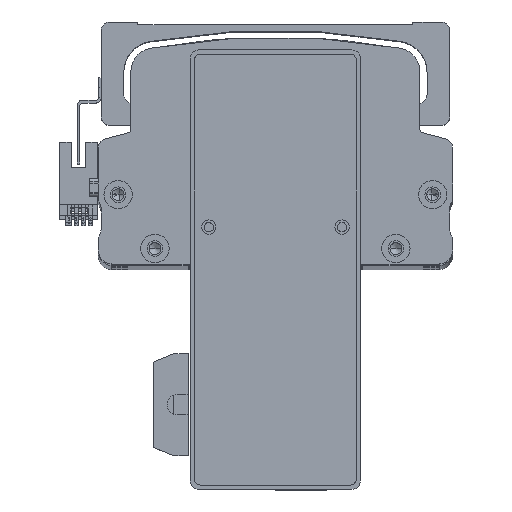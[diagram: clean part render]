
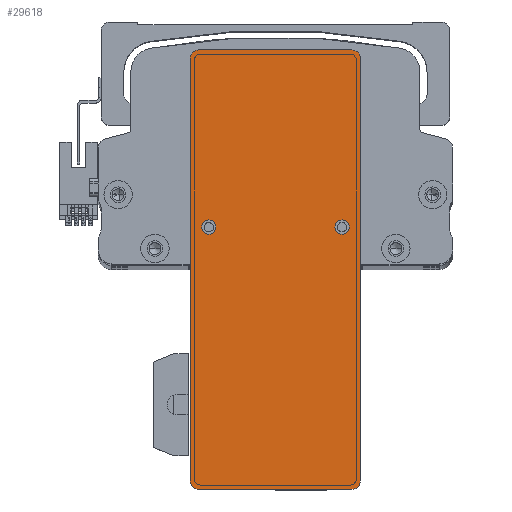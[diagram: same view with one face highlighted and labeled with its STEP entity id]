
A CAD part, top view. The second image highlights one B-rep face of the part: STEP entity #29618.
In plain terms, the highlighted planar face has unit normal (0, 0, 1) as drawn and (0, 0, -1) by its records, which use the part's own axes.
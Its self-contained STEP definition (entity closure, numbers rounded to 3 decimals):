
#18 = CARTESIAN_POINT ( 'NONE',  ( 77.5, -30., 0. ) ) ;
#180 = CARTESIAN_POINT ( 'NONE',  ( -77.5, -30., 0. ) ) ;
#2759 = VERTEX_POINT ( 'NONE', #12297 ) ;
#3508 = DIRECTION ( 'NONE',  ( 0., 0., -1. ) ) ;
#3898 = AXIS2_PLACEMENT_3D ( 'NONE', #55791, #17761, #62223 ) ;
#4112 = DIRECTION ( 'NONE',  ( 0., 0., -1. ) ) ;
#4841 = EDGE_CURVE ( 'NONE', #33729, #6601, #59389, .T. ) ;
#5107 = CARTESIAN_POINT ( 'NONE',  ( 74.5, -30., 0. ) ) ;
#5283 = VERTEX_POINT ( 'NONE', #66756 ) ;
#6282 = DIRECTION ( 'NONE',  ( -1., 0., 0. ) ) ;
#6601 = VERTEX_POINT ( 'NONE', #73400 ) ;
#6992 = ORIENTED_EDGE ( 'NONE', *, *, #37466, .F. ) ;
#7549 = LINE ( 'NONE', #82133, #56272 ) ;
#7637 = VECTOR ( 'NONE', #57417, 1000. ) ;
#9654 = LINE ( 'NONE', #180, #7637 ) ;
#9689 = AXIS2_PLACEMENT_3D ( 'NONE', #42167, #4112, #48551 ) ;
#10355 = EDGE_CURVE ( 'NONE', #22033, #75538, #24693, .T. ) ;
#12297 = CARTESIAN_POINT ( 'NONE',  ( -77.5, 27., 0. ) ) ;
#12354 = ORIENTED_EDGE ( 'NONE', *, *, #50772, .F. ) ;
#15564 = CARTESIAN_POINT ( 'NONE',  ( 12.5, 23.5, 0. ) ) ;
#17430 = CARTESIAN_POINT ( 'NONE',  ( 15., -23.5, 0. ) ) ;
#17761 = DIRECTION ( 'NONE',  ( 0., 0., 1. ) ) ;
#18126 = ORIENTED_EDGE ( 'NONE', *, *, #60031, .T. ) ;
#18318 = ORIENTED_EDGE ( 'NONE', *, *, #49220, .F. ) ;
#18340 = VERTEX_POINT ( 'NONE', #43983 ) ;
#18750 = EDGE_LOOP ( 'NONE', ( #33660, #18126, #6992, #36166, #54632, #18823, #41938, #19063 ) ) ;
#18823 = ORIENTED_EDGE ( 'NONE', *, *, #28400, .T. ) ;
#19063 = ORIENTED_EDGE ( 'NONE', *, *, #38643, .T. ) ;
#19274 = VERTEX_POINT ( 'NONE', #15564 ) ;
#19898 = EDGE_CURVE ( 'NONE', #52627, #62026, #39453, .T. ) ;
#20687 = CARTESIAN_POINT ( 'NONE',  ( 15., -23.5, 0. ) ) ;
#21360 = CARTESIAN_POINT ( 'NONE',  ( -74.5, 27., 0. ) ) ;
#22033 = VERTEX_POINT ( 'NONE', #60860 ) ;
#23217 = AXIS2_PLACEMENT_3D ( 'NONE', #27909, #72259, #34244 ) ;
#23690 = CIRCLE ( 'NONE', #56403, 3. ) ;
#23836 = DIRECTION ( 'NONE',  ( -1., 0., 0. ) ) ;
#24693 = LINE ( 'NONE', #18, #71382 ) ;
#26590 = DIRECTION ( 'NONE',  ( 0., 0., -1. ) ) ;
#27112 = DIRECTION ( 'NONE',  ( -1., 0., 0. ) ) ;
#27602 = CARTESIAN_POINT ( 'NONE',  ( 77.5, 27., 0. ) ) ;
#27770 = DIRECTION ( 'NONE',  ( 1., 0., 0. ) ) ;
#27909 = CARTESIAN_POINT ( 'NONE',  ( 15., 23.5, 0. ) ) ;
#28400 = EDGE_CURVE ( 'NONE', #2759, #43073, #45129, .T. ) ;
#28535 = AXIS2_PLACEMENT_3D ( 'NONE', #41529, #3508, #47897 ) ;
#28962 = FACE_BOUND ( 'NONE', #53928, .T. ) ;
#29618 = ADVANCED_FACE ( 'NONE', ( #28962, #60716, #62723 ), #55528, .F. ) ;
#32005 = CARTESIAN_POINT ( 'NONE',  ( 12.5, -23.5, 0. ) ) ;
#33660 = ORIENTED_EDGE ( 'NONE', *, *, #10355, .F. ) ;
#33729 = VERTEX_POINT ( 'NONE', #37395 ) ;
#34244 = DIRECTION ( 'NONE',  ( -1., 0., 0. ) ) ;
#34945 = DIRECTION ( 'NONE',  ( 0., 0., -1. ) ) ;
#36166 = ORIENTED_EDGE ( 'NONE', *, *, #4841, .T. ) ;
#37395 = CARTESIAN_POINT ( 'NONE',  ( -74.5, -30., 0. ) ) ;
#37466 = EDGE_CURVE ( 'NONE', #33729, #60692, #70700, .T. ) ;
#38643 = EDGE_CURVE ( 'NONE', #18340, #75538, #23690, .T. ) ;
#39453 = CIRCLE ( 'NONE', #60641, 2.5 ) ;
#39903 = EDGE_LOOP ( 'NONE', ( #55905, #12354 ) ) ;
#41529 = CARTESIAN_POINT ( 'NONE',  ( 15., 23.5, 0. ) ) ;
#41938 = ORIENTED_EDGE ( 'NONE', *, *, #69398, .F. ) ;
#42167 = CARTESIAN_POINT ( 'NONE',  ( 74.5, -27., 0. ) ) ;
#42797 = EDGE_CURVE ( 'NONE', #2759, #6601, #9654, .T. ) ;
#43073 = VERTEX_POINT ( 'NONE', #66846 ) ;
#43983 = CARTESIAN_POINT ( 'NONE',  ( 74.5, 30., 0. ) ) ;
#45129 = CIRCLE ( 'NONE', #54904, 3. ) ;
#46175 = AXIS2_PLACEMENT_3D ( 'NONE', #20687, #65126, #27112 ) ;
#47897 = DIRECTION ( 'NONE',  ( -1., 0., 0. ) ) ;
#48551 = DIRECTION ( 'NONE',  ( 1., 0., 0. ) ) ;
#48946 = CARTESIAN_POINT ( 'NONE',  ( 17.5, -23.5, 0. ) ) ;
#49220 = EDGE_CURVE ( 'NONE', #5283, #19274, #79366, .T. ) ;
#50772 = EDGE_CURVE ( 'NONE', #62026, #52627, #55988, .T. ) ;
#51286 = CIRCLE ( 'NONE', #28535, 2.5 ) ;
#52627 = VERTEX_POINT ( 'NONE', #32005 ) ;
#52947 = CARTESIAN_POINT ( 'NONE',  ( 77.5, -30., 0. ) ) ;
#53928 = EDGE_LOOP ( 'NONE', ( #69070, #18318 ) ) ;
#54632 = ORIENTED_EDGE ( 'NONE', *, *, #42797, .F. ) ;
#54904 = AXIS2_PLACEMENT_3D ( 'NONE', #21360, #65791, #27770 ) ;
#55528 = PLANE ( 'NONE',  #3898 ) ;
#55791 = CARTESIAN_POINT ( 'NONE',  ( 0., 0., 0. ) ) ;
#55905 = ORIENTED_EDGE ( 'NONE', *, *, #19898, .F. ) ;
#55988 = CIRCLE ( 'NONE', #46175, 2.5 ) ;
#56272 = VECTOR ( 'NONE', #6282, 1000. ) ;
#56403 = AXIS2_PLACEMENT_3D ( 'NONE', #64602, #26590, #70956 ) ;
#57257 = DIRECTION ( 'NONE',  ( 0., 1., 0. ) ) ;
#57417 = DIRECTION ( 'NONE',  ( 0., -1., 0. ) ) ;
#59151 = CIRCLE ( 'NONE', #9689, 3. ) ;
#59389 = CIRCLE ( 'NONE', #66123, 3. ) ;
#60031 = EDGE_CURVE ( 'NONE', #22033, #60692, #59151, .T. ) ;
#60641 = AXIS2_PLACEMENT_3D ( 'NONE', #17430, #61885, #23836 ) ;
#60692 = VERTEX_POINT ( 'NONE', #5107 ) ;
#60716 = FACE_BOUND ( 'NONE', #39903, .T. ) ;
#60860 = CARTESIAN_POINT ( 'NONE',  ( 77.5, -27., 0. ) ) ;
#61885 = DIRECTION ( 'NONE',  ( 0., 0., -1. ) ) ;
#62026 = VERTEX_POINT ( 'NONE', #48946 ) ;
#62223 = DIRECTION ( 'NONE',  ( 1., 0., 0. ) ) ;
#62723 = FACE_OUTER_BOUND ( 'NONE', #18750, .T. ) ;
#64602 = CARTESIAN_POINT ( 'NONE',  ( 74.5, 27., 0. ) ) ;
#65126 = DIRECTION ( 'NONE',  ( 0., 0., -1. ) ) ;
#65791 = DIRECTION ( 'NONE',  ( 0., 0., -1. ) ) ;
#66123 = AXIS2_PLACEMENT_3D ( 'NONE', #72935, #34945, #79356 ) ;
#66756 = CARTESIAN_POINT ( 'NONE',  ( 17.5, 23.5, 0. ) ) ;
#66846 = CARTESIAN_POINT ( 'NONE',  ( -74.5, 30., 0. ) ) ;
#68750 = VECTOR ( 'NONE', #72110, 1000. ) ;
#69070 = ORIENTED_EDGE ( 'NONE', *, *, #74372, .F. ) ;
#69398 = EDGE_CURVE ( 'NONE', #18340, #43073, #7549, .T. ) ;
#70700 = LINE ( 'NONE', #52947, #68750 ) ;
#70956 = DIRECTION ( 'NONE',  ( 1., 0., 0. ) ) ;
#71382 = VECTOR ( 'NONE', #57257, 1000. ) ;
#72110 = DIRECTION ( 'NONE',  ( 1., 0., 0. ) ) ;
#72259 = DIRECTION ( 'NONE',  ( 0., 0., -1. ) ) ;
#72935 = CARTESIAN_POINT ( 'NONE',  ( -74.5, -27., 0. ) ) ;
#73400 = CARTESIAN_POINT ( 'NONE',  ( -77.5, -27., 0. ) ) ;
#74372 = EDGE_CURVE ( 'NONE', #19274, #5283, #51286, .T. ) ;
#75538 = VERTEX_POINT ( 'NONE', #27602 ) ;
#79356 = DIRECTION ( 'NONE',  ( 1., 0., 0. ) ) ;
#79366 = CIRCLE ( 'NONE', #23217, 2.5 ) ;
#82133 = CARTESIAN_POINT ( 'NONE',  ( 77.5, 30., 0. ) ) ;
